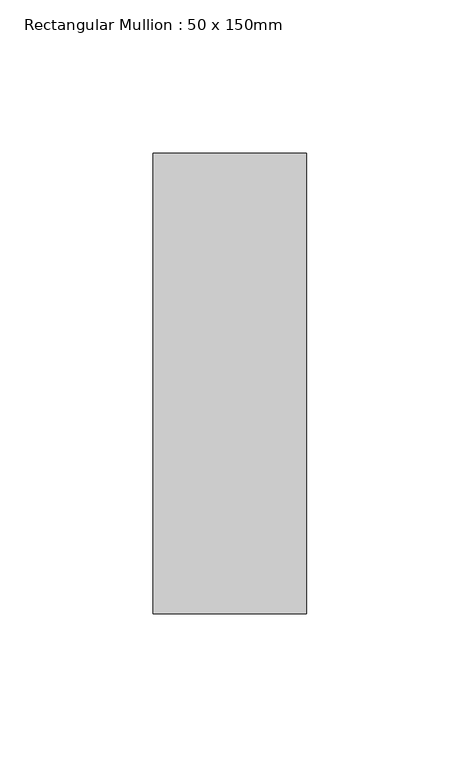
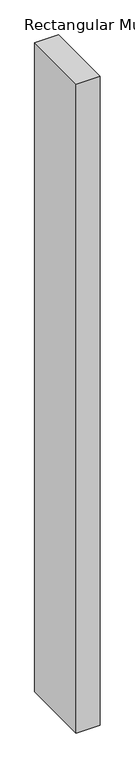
"""IFC4 building model written with IfcOpenShell, lengths in millimetres: member geometry, Rectangular Mullion : 50 x 150mm."""

from ifc_helpers import new_model, si_unit, frame, origin, place, context, project, spatial, polyline, outline, extrude, source, transform, mapped, element, save


def rectangular_mullion_50_x_150mm_3009440c(model_context):
    return source(origin(), model_context, "Body", "SweptSolid", [
        extrude(outline(polyline([(25.0, 75.0), (25.0, -75.0), (-25.0, -75.0), (-25.0, 75.0), (25.0, 75.0)])), frame((0.0, 0.0, -1429.8186279), z_axis=(0.0, 0.0, 1.0), x_axis=(1.0, 0.0, 0.0)), (0.0, 0.0, 1.0), 1429.8186279),
    ])


if __name__ == "__main__":
    model = new_model("IFC4")
    model_context = context("Model", 3, world=origin())
    ifc_project = project(units=[si_unit("LENGTHUNIT", "METRE", prefix="MILLI")], contexts=[model_context])
    site = spatial("IfcSite", under=ifc_project)
    building = spatial("IfcBuilding", under=site)
    placement = place(None, origin())
    rectangular_mullion_50_x_150mm_shape = rectangular_mullion_50_x_150mm_3009440c(model_context)
    element("IfcMember", 1, ObjectType="Rectangular Mullion : 50 x 150mm", at=placement, inside=building, context=model_context, shape_type="MappedRepresentation", body=[
        mapped(rectangular_mullion_50_x_150mm_shape, transform((0.0, 0.0, 0.0), x_axis=(1.0, 0.0, 0.0), y_axis=(0.0, 1.0, 0.0), z_axis=(0.0, 0.0, 1.0))),
    ])
    save(model, "model.ifc")
